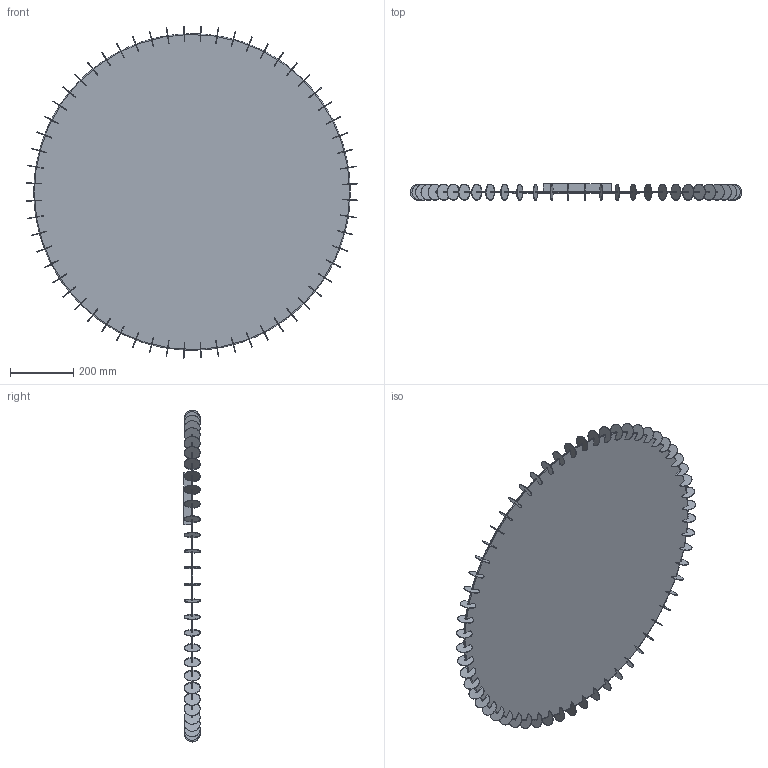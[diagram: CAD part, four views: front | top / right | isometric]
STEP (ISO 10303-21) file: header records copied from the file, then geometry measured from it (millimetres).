
FILE_DESCRIPTION(/* description */ (''),/* implementation_level */ '2;1');
FILE_NAME(/* name */ '29303X~1',/* time_stamp */ '2024-01-09T15:48:00+01:00',/* author */ (''),/* organization */ (''),/* preprocessor_version */ 'ST-DEVELOPER v16.5',/* originating_system */ '',/* authorisation */ '');
FILE_SCHEMA (('AUTOMOTIVE_DESIGN'));
Length unit declared in the file: millimetre
Products named in the file (1): Document
Bounding box: 1048.79 x 51.5 x 1049.01 mm (x, y, z)
Volume: 871862.7 mm3; surface area: 1127388.8 mm2
Topology: 1 solids, 62 shells, 491 faces, 1282 edges, 854 vertices
Faces by surface type: plane 307, bspline 184
Entity records: 20139 total; most frequent: CARTESIAN_POINT 12222, ORIENTED_EDGE 2322, EDGE_CURVE 1282, VERTEX_POINT 854, B_SPLINE_CURVE_WITH_KNOTS 852, ADVANCED_FACE 491, FACE_OUTER_BOUND 491, EDGE_LOOP 491
